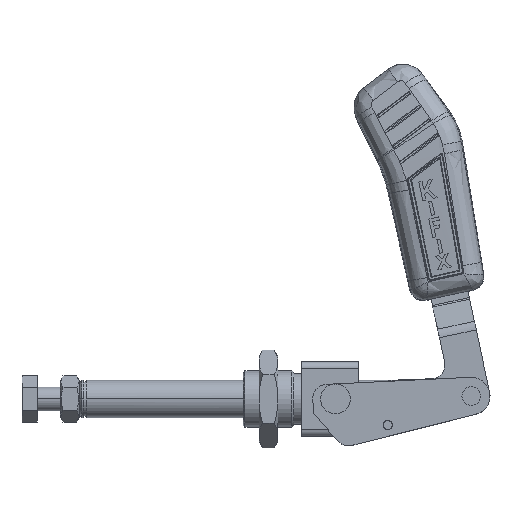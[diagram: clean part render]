
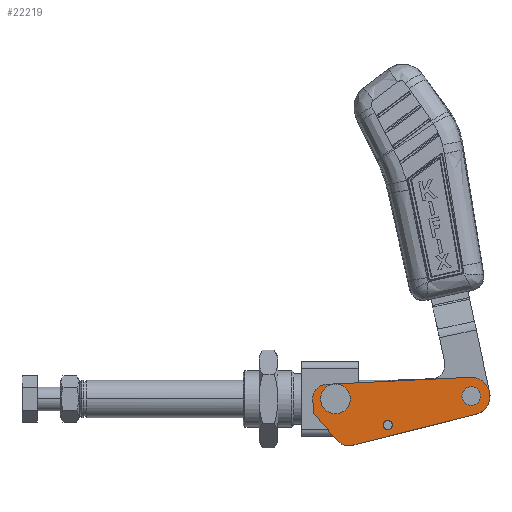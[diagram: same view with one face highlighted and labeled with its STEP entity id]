
A CAD part, top view. The second image highlights one B-rep face of the part: STEP entity #22219.
In plain terms, the highlighted planar face has unit normal (0, 0, 1).
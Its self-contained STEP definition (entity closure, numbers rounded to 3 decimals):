
#21 = DIRECTION ( 'NONE',  ( 0., 0., 1. ) ) ;
#232 = CARTESIAN_POINT ( 'NONE',  ( -3.2, 0., 0. ) ) ;
#426 = CARTESIAN_POINT ( 'NONE',  ( -56.4, 12.9, 0. ) ) ;
#528 = VERTEX_POINT ( 'NONE', #4308 ) ;
#732 = AXIS2_PLACEMENT_3D ( 'NONE', #13260, #3730, #17130 ) ;
#843 = CIRCLE ( 'NONE', #1108, 8. ) ;
#985 = VERTEX_POINT ( 'NONE', #11458 ) ;
#1006 = CARTESIAN_POINT ( 'NONE',  ( 0., -8., 0. ) ) ;
#1030 = CARTESIAN_POINT ( 'NONE',  ( -65.767, 15.175, 0. ) ) ;
#1108 = AXIS2_PLACEMENT_3D ( 'NONE', #1883, #15268, #3816 ) ;
#1185 = DIRECTION ( 'NONE',  ( -0.196, -0.981, 0. ) ) ;
#1371 = ORIENTED_EDGE ( 'NONE', *, *, #21696, .F. ) ;
#1394 = EDGE_LOOP ( 'NONE', ( #10575, #20639, #17196, #7380, #7484, #11432, #10743, #3462 ) ) ;
#1425 = CIRCLE ( 'NONE', #21060, 6. ) ;
#1660 = EDGE_CURVE ( 'NONE', #15078, #3626, #843, .T. ) ;
#1863 = CARTESIAN_POINT ( 'NONE',  ( -39.5, -3.3, 0. ) ) ;
#1883 = CARTESIAN_POINT ( 'NONE',  ( 0., 0., 0. ) ) ;
#1955 = EDGE_CURVE ( 'NONE', #23884, #18991, #6797, .T. ) ;
#2000 = CARTESIAN_POINT ( 'NONE',  ( 3.2, 0., 0. ) ) ;
#2226 = VERTEX_POINT ( 'NONE', #21398 ) ;
#2306 = LINE ( 'NONE', #9656, #22075 ) ;
#2345 = DIRECTION ( 'NONE',  ( 1., 0., 0. ) ) ;
#2645 = CARTESIAN_POINT ( 'NONE',  ( 0., 0., 0. ) ) ;
#3000 = FACE_OUTER_BOUND ( 'NONE', #1394, .T. ) ;
#3462 = ORIENTED_EDGE ( 'NONE', *, *, #7881, .T. ) ;
#3626 = VERTEX_POINT ( 'NONE', #5106 ) ;
#3730 = DIRECTION ( 'NONE',  ( 0., 0., 1. ) ) ;
#3816 = DIRECTION ( 'NONE',  ( 1., 0., 0. ) ) ;
#4308 = CARTESIAN_POINT ( 'NONE',  ( -35.5, -3.3, 0. ) ) ;
#4498 = CIRCLE ( 'NONE', #23947, 2. ) ;
#4528 = ORIENTED_EDGE ( 'NONE', *, *, #15450, .F. ) ;
#4562 = DIRECTION ( 'NONE',  ( 1., 0., 0. ) ) ;
#4687 = DIRECTION ( 'NONE',  ( 0., 0., 1. ) ) ;
#4862 = DIRECTION ( 'NONE',  ( 0., 0., 1. ) ) ;
#5106 = CARTESIAN_POINT ( 'NONE',  ( 8., 0., 0. ) ) ;
#5224 = VECTOR ( 'NONE', #1185, 1000. ) ;
#5325 = ORIENTED_EDGE ( 'NONE', *, *, #15196, .F. ) ;
#5530 = VECTOR ( 'NONE', #17438, 1000. ) ;
#5535 = EDGE_CURVE ( 'NONE', #21849, #2226, #10906, .T. ) ;
#5614 = DIRECTION ( 'NONE',  ( 0., 0., 1. ) ) ;
#6059 = EDGE_CURVE ( 'NONE', #6311, #21849, #21837, .T. ) ;
#6311 = VERTEX_POINT ( 'NONE', #8602 ) ;
#6797 = CIRCLE ( 'NONE', #12641, 3.2 ) ;
#6807 = EDGE_CURVE ( 'NONE', #24466, #985, #1425, .T. ) ;
#7086 = CARTESIAN_POINT ( 'NONE',  ( -65.767, 15.175, 0. ) ) ;
#7380 = ORIENTED_EDGE ( 'NONE', *, *, #23496, .T. ) ;
#7484 = ORIENTED_EDGE ( 'NONE', *, *, #14451, .T. ) ;
#7507 = VECTOR ( 'NONE', #8480, 1000. ) ;
#7528 = CIRCLE ( 'NONE', #17390, 3.2 ) ;
#7881 = EDGE_CURVE ( 'NONE', #2226, #24466, #2306, .T. ) ;
#8079 = FACE_BOUND ( 'NONE', #16162, .T. ) ;
#8480 = DIRECTION ( 'NONE',  ( -0.981, 0.196, 0. ) ) ;
#8602 = CARTESIAN_POINT ( 'NONE',  ( -58.708, 19.884, 0. ) ) ;
#8692 = ORIENTED_EDGE ( 'NONE', *, *, #15290, .F. ) ;
#9061 = AXIS2_PLACEMENT_3D ( 'NONE', #2645, #16028, #4562 ) ;
#9105 = DIRECTION ( 'NONE',  ( 0., 0., 1. ) ) ;
#9158 = AXIS2_PLACEMENT_3D ( 'NONE', #17092, #5614, #19013 ) ;
#9267 = CARTESIAN_POINT ( 'NONE',  ( -60.45, 12.9, 0. ) ) ;
#9273 = EDGE_LOOP ( 'NONE', ( #4528, #5325 ) ) ;
#9656 = CARTESIAN_POINT ( 'NONE',  ( -67., 9., 0. ) ) ;
#10339 = VERTEX_POINT ( 'NONE', #14418 ) ;
#10565 = DIRECTION ( 'NONE',  ( 0., 0., 1. ) ) ;
#10575 = ORIENTED_EDGE ( 'NONE', *, *, #6807, .T. ) ;
#10606 = LINE ( 'NONE', #15423, #5530 ) ;
#10743 = ORIENTED_EDGE ( 'NONE', *, *, #5535, .T. ) ;
#10906 = LINE ( 'NONE', #1030, #5224 ) ;
#11184 = DIRECTION ( 'NONE',  ( 0., 0., 1. ) ) ;
#11330 = AXIS2_PLACEMENT_3D ( 'NONE', #22678, #11184, #24585 ) ;
#11432 = ORIENTED_EDGE ( 'NONE', *, *, #6059, .T. ) ;
#11433 = VERTEX_POINT ( 'NONE', #9267 ) ;
#11454 = CARTESIAN_POINT ( 'NONE',  ( 0., 0., 0. ) ) ;
#11458 = CARTESIAN_POINT ( 'NONE',  ( -54.388, -8., 0. ) ) ;
#12641 = AXIS2_PLACEMENT_3D ( 'NONE', #16331, #4862, #18271 ) ;
#13176 = CIRCLE ( 'NONE', #9061, 8. ) ;
#13200 = CIRCLE ( 'NONE', #19546, 4.05 ) ;
#13260 = CARTESIAN_POINT ( 'NONE',  ( -54.388, -2., 0. ) ) ;
#13394 = DIRECTION ( 'NONE',  ( 1., 0., 0. ) ) ;
#13810 = DIRECTION ( 'NONE',  ( 0., 0., 1. ) ) ;
#14234 = CARTESIAN_POINT ( 'NONE',  ( -59.69, -4.807, 0. ) ) ;
#14248 = ORIENTED_EDGE ( 'NONE', *, *, #19967, .F. ) ;
#14418 = CARTESIAN_POINT ( 'NONE',  ( 1.567, 7.845, 0. ) ) ;
#14451 = EDGE_CURVE ( 'NONE', #10339, #6311, #17737, .T. ) ;
#15078 = VERTEX_POINT ( 'NONE', #1006 ) ;
#15196 = EDGE_CURVE ( 'NONE', #11433, #16204, #13200, .T. ) ;
#15268 = DIRECTION ( 'NONE',  ( 0., 0., 1. ) ) ;
#15290 = EDGE_CURVE ( 'NONE', #17334, #528, #16478, .T. ) ;
#15291 = CIRCLE ( 'NONE', #22891, 4.05 ) ;
#15423 = CARTESIAN_POINT ( 'NONE',  ( -54.388, -8., 0. ) ) ;
#15449 = DIRECTION ( 'NONE',  ( 0.468, -0.884, 0. ) ) ;
#15450 = EDGE_CURVE ( 'NONE', #16204, #11433, #15291, .T. ) ;
#16028 = DIRECTION ( 'NONE',  ( 0., 0., 1. ) ) ;
#16146 = CARTESIAN_POINT ( 'NONE',  ( -37.5, -3.3, 0. ) ) ;
#16162 = EDGE_LOOP ( 'NONE', ( #1371, #8692 ) ) ;
#16204 = VERTEX_POINT ( 'NONE', #18990 ) ;
#16331 = CARTESIAN_POINT ( 'NONE',  ( 0., 0., 0. ) ) ;
#16478 = CIRCLE ( 'NONE', #11330, 2. ) ;
#17092 = CARTESIAN_POINT ( 'NONE',  ( -59.883, 14., 0. ) ) ;
#17130 = DIRECTION ( 'NONE',  ( 1., 0., 0. ) ) ;
#17196 = ORIENTED_EDGE ( 'NONE', *, *, #1660, .T. ) ;
#17334 = VERTEX_POINT ( 'NONE', #1863 ) ;
#17390 = AXIS2_PLACEMENT_3D ( 'NONE', #11454, #21, #13394 ) ;
#17399 = EDGE_CURVE ( 'NONE', #985, #15078, #10606, .T. ) ;
#17438 = DIRECTION ( 'NONE',  ( 1., 0., 0. ) ) ;
#17737 = LINE ( 'NONE', #19979, #7507 ) ;
#18093 = DIRECTION ( 'NONE',  ( 1., 0., 0. ) ) ;
#18270 = FACE_BOUND ( 'NONE', #9273, .T. ) ;
#18271 = DIRECTION ( 'NONE',  ( 1., 0., 0. ) ) ;
#18990 = CARTESIAN_POINT ( 'NONE',  ( -52.35, 12.9, 0. ) ) ;
#18991 = VERTEX_POINT ( 'NONE', #2000 ) ;
#19013 = DIRECTION ( 'NONE',  ( 1., 0., 0. ) ) ;
#19546 = AXIS2_PLACEMENT_3D ( 'NONE', #20598, #9105, #22509 ) ;
#19967 = EDGE_CURVE ( 'NONE', #18991, #23884, #7528, .T. ) ;
#19979 = CARTESIAN_POINT ( 'NONE',  ( 1.567, 7.845, 0. ) ) ;
#20598 = CARTESIAN_POINT ( 'NONE',  ( -56.4, 12.9, 0. ) ) ;
#20639 = ORIENTED_EDGE ( 'NONE', *, *, #17399, .T. ) ;
#21060 = AXIS2_PLACEMENT_3D ( 'NONE', #22070, #10565, #23956 ) ;
#21398 = CARTESIAN_POINT ( 'NONE',  ( -67., 9., 0. ) ) ;
#21696 = EDGE_CURVE ( 'NONE', #528, #17334, #4498, .T. ) ;
#21837 = CIRCLE ( 'NONE', #9158, 6. ) ;
#21849 = VERTEX_POINT ( 'NONE', #7086 ) ;
#22070 = CARTESIAN_POINT ( 'NONE',  ( -54.388, -2., 0. ) ) ;
#22075 = VECTOR ( 'NONE', #15449, 1000. ) ;
#22219 = ADVANCED_FACE ( 'NONE', ( #8079, #18270, #22756, #3000 ), #22806, .T. ) ;
#22509 = DIRECTION ( 'NONE',  ( 1., 0., 0. ) ) ;
#22678 = CARTESIAN_POINT ( 'NONE',  ( -37.5, -3.3, 0. ) ) ;
#22756 = FACE_BOUND ( 'NONE', #24074, .T. ) ;
#22806 = PLANE ( 'NONE',  #732 ) ;
#22891 = AXIS2_PLACEMENT_3D ( 'NONE', #426, #13810, #2345 ) ;
#23496 = EDGE_CURVE ( 'NONE', #3626, #10339, #13176, .T. ) ;
#23497 = ORIENTED_EDGE ( 'NONE', *, *, #1955, .F. ) ;
#23884 = VERTEX_POINT ( 'NONE', #232 ) ;
#23947 = AXIS2_PLACEMENT_3D ( 'NONE', #16146, #4687, #18093 ) ;
#23956 = DIRECTION ( 'NONE',  ( 1., 0., 0. ) ) ;
#24074 = EDGE_LOOP ( 'NONE', ( #14248, #23497 ) ) ;
#24466 = VERTEX_POINT ( 'NONE', #14234 ) ;
#24585 = DIRECTION ( 'NONE',  ( 1., 0., 0. ) ) ;
